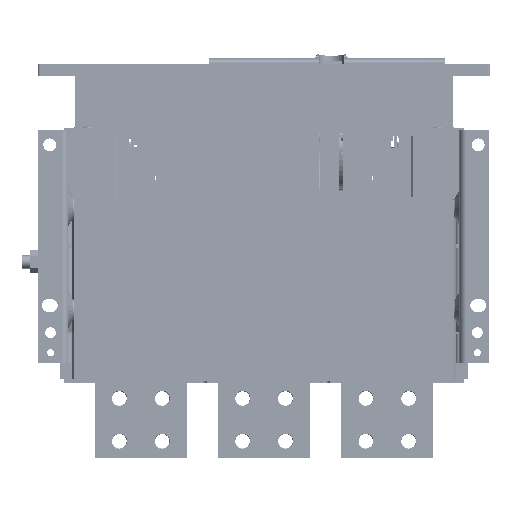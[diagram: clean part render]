
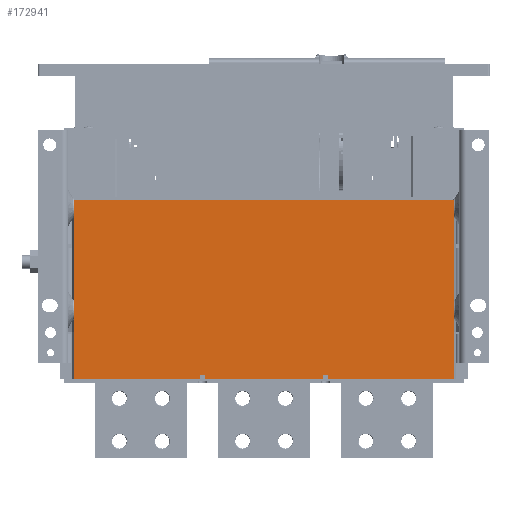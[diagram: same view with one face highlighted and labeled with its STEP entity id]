
A CAD part, front view. The second image highlights one B-rep face of the part: STEP entity #172941.
In plain terms, the highlighted planar face has unit normal (0, -1, 0) as drawn and (1, 0, 0) by its records, which use the part's own axes.
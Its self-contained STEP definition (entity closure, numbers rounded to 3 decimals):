
#6578 = VECTOR ( 'NONE', #127688, 1000. ) ;
#9912 = FACE_OUTER_BOUND ( 'NONE', #198803, .T. ) ;
#15836 = LINE ( 'NONE', #188098, #6578 ) ;
#16287 = ORIENTED_EDGE ( 'NONE', *, *, #143714, .T. ) ;
#17051 = VERTEX_POINT ( 'NONE', #203766 ) ;
#17206 = CARTESIAN_POINT ( 'NONE',  ( 358.258, -196.064, -285. ) ) ;
#17511 = EDGE_CURVE ( 'NONE', #94677, #71894, #109557, .T. ) ;
#18923 = CARTESIAN_POINT ( 'NONE',  ( 358.258, 41.436, -289.5 ) ) ;
#19701 = VERTEX_POINT ( 'NONE', #142505 ) ;
#20952 = CARTESIAN_POINT ( 'NONE',  ( 358.258, -81.064, -285. ) ) ;
#23403 = VERTEX_POINT ( 'NONE', #28809 ) ;
#28809 = CARTESIAN_POINT ( 'NONE',  ( 358.258, -313.564, -289.5 ) ) ;
#29298 = CARTESIAN_POINT ( 'NONE',  ( 358.258, -81.064, -289.5 ) ) ;
#30555 = VECTOR ( 'NONE', #142931, 1000. ) ;
#30732 = DIRECTION ( 'NONE',  ( 0., 0., -1. ) ) ;
#36885 = CARTESIAN_POINT ( 'NONE',  ( 358.258, -76.064, -289.5 ) ) ;
#38766 = VECTOR ( 'NONE', #63889, 1000. ) ;
#40186 = VECTOR ( 'NONE', #245793, 1000. ) ;
#40780 = CARTESIAN_POINT ( 'NONE',  ( 358.258, -196.064, -289.5 ) ) ;
#40948 = DIRECTION ( 'NONE',  ( 0., -1., 0. ) ) ;
#41398 = CARTESIAN_POINT ( 'NONE',  ( 358.258, -313.564, -122. ) ) ;
#44404 = EDGE_CURVE ( 'NONE', #205946, #68896, #172002, .T. ) ;
#44481 = EDGE_CURVE ( 'NONE', #179214, #23403, #61366, .T. ) ;
#46580 = ORIENTED_EDGE ( 'NONE', *, *, #166120, .F. ) ;
#47121 = AXIS2_PLACEMENT_3D ( 'NONE', #88257, #228275, #87002 ) ;
#49201 = DIRECTION ( 'NONE',  ( 0., -1., 0. ) ) ;
#56326 = DIRECTION ( 'NONE',  ( 0., -1., 0. ) ) ;
#58335 = ORIENTED_EDGE ( 'NONE', *, *, #17511, .F. ) ;
#61366 = LINE ( 'NONE', #218153, #38766 ) ;
#63889 = DIRECTION ( 'NONE',  ( 0., 0., -1. ) ) ;
#67491 = CARTESIAN_POINT ( 'NONE',  ( 358.258, -191.064, -289.5 ) ) ;
#68896 = VERTEX_POINT ( 'NONE', #230244 ) ;
#69702 = CARTESIAN_POINT ( 'NONE',  ( 358.258, -81.064, -289.5 ) ) ;
#71894 = VERTEX_POINT ( 'NONE', #67491 ) ;
#75256 = CARTESIAN_POINT ( 'NONE',  ( 358.258, -81.064, -285. ) ) ;
#76084 = VERTEX_POINT ( 'NONE', #75256 ) ;
#81008 = LINE ( 'NONE', #206791, #237910 ) ;
#83510 = VERTEX_POINT ( 'NONE', #192325 ) ;
#87002 = DIRECTION ( 'NONE',  ( 0., 1., 0. ) ) ;
#88257 = CARTESIAN_POINT ( 'NONE',  ( 358.258, 29.936, -200. ) ) ;
#89543 = ORIENTED_EDGE ( 'NONE', *, *, #215842, .F. ) ;
#94677 = VERTEX_POINT ( 'NONE', #29298 ) ;
#98527 = LINE ( 'NONE', #36885, #40186 ) ;
#104008 = ORIENTED_EDGE ( 'NONE', *, *, #209656, .F. ) ;
#109557 = LINE ( 'NONE', #69702, #249916 ) ;
#114999 = EDGE_CURVE ( 'NONE', #83510, #118770, #15836, .T. ) ;
#118770 = VERTEX_POINT ( 'NONE', #18923 ) ;
#119200 = DIRECTION ( 'NONE',  ( 0., -1., 0. ) ) ;
#119234 = DIRECTION ( 'NONE',  ( 0., 1., 0. ) ) ;
#120496 = CARTESIAN_POINT ( 'NONE',  ( 358.258, -196.064, -285. ) ) ;
#126168 = CARTESIAN_POINT ( 'NONE',  ( 358.258, -76.064, -285. ) ) ;
#126273 = ORIENTED_EDGE ( 'NONE', *, *, #44481, .T. ) ;
#127688 = DIRECTION ( 'NONE',  ( 0., 0., -1. ) ) ;
#129557 = ORIENTED_EDGE ( 'NONE', *, *, #145505, .T. ) ;
#140760 = EDGE_CURVE ( 'NONE', #17051, #156014, #98527, .T. ) ;
#141653 = VECTOR ( 'NONE', #251984, 1000. ) ;
#142505 = CARTESIAN_POINT ( 'NONE',  ( 358.258, -196.064, -289.5 ) ) ;
#142931 = DIRECTION ( 'NONE',  ( 0., 0., -1. ) ) ;
#143714 = EDGE_CURVE ( 'NONE', #68896, #71894, #81008, .T. ) ;
#145505 = EDGE_CURVE ( 'NONE', #83510, #179214, #236267, .T. ) ;
#153204 = EDGE_CURVE ( 'NONE', #19701, #23403, #175764, .T. ) ;
#153800 = VECTOR ( 'NONE', #56326, 1000. ) ;
#156014 = VERTEX_POINT ( 'NONE', #126168 ) ;
#166120 = EDGE_CURVE ( 'NONE', #156014, #76084, #232354, .T. ) ;
#167234 = EDGE_CURVE ( 'NONE', #19701, #205946, #194203, .T. ) ;
#169213 = PLANE ( 'NONE',  #47121 ) ;
#170937 = ORIENTED_EDGE ( 'NONE', *, *, #153204, .F. ) ;
#172002 = LINE ( 'NONE', #120496, #247997 ) ;
#172941 = ADVANCED_FACE ( 'NONE', ( #9912 ), #169213, .T. ) ;
#175764 = LINE ( 'NONE', #40780, #177914 ) ;
#177914 = VECTOR ( 'NONE', #214309, 1000. ) ;
#179214 = VERTEX_POINT ( 'NONE', #41398 ) ;
#188098 = CARTESIAN_POINT ( 'NONE',  ( 358.258, 41.436, -122. ) ) ;
#192325 = CARTESIAN_POINT ( 'NONE',  ( 358.258, 41.436, -122. ) ) ;
#194203 = LINE ( 'NONE', #198014, #141653 ) ;
#198014 = CARTESIAN_POINT ( 'NONE',  ( 358.258, -196.064, -289.5 ) ) ;
#198803 = EDGE_LOOP ( 'NONE', ( #126273, #170937, #220789, #211405, #16287, #58335, #104008, #46580, #216055, #89543, #222504, #129557 ) ) ;
#200656 = VECTOR ( 'NONE', #119200, 1000. ) ;
#203766 = CARTESIAN_POINT ( 'NONE',  ( 358.258, -76.064, -289.5 ) ) ;
#205946 = VERTEX_POINT ( 'NONE', #17206 ) ;
#206791 = CARTESIAN_POINT ( 'NONE',  ( 358.258, -191.064, -285. ) ) ;
#209656 = EDGE_CURVE ( 'NONE', #76084, #94677, #240578, .T. ) ;
#211405 = ORIENTED_EDGE ( 'NONE', *, *, #44404, .T. ) ;
#213061 = LINE ( 'NONE', #232301, #200656 ) ;
#214309 = DIRECTION ( 'NONE',  ( 0., -1., 0. ) ) ;
#215842 = EDGE_CURVE ( 'NONE', #118770, #17051, #213061, .T. ) ;
#216055 = ORIENTED_EDGE ( 'NONE', *, *, #140760, .F. ) ;
#217004 = CARTESIAN_POINT ( 'NONE',  ( 358.258, 41.436, -122. ) ) ;
#218153 = CARTESIAN_POINT ( 'NONE',  ( 358.258, -313.564, -122. ) ) ;
#220789 = ORIENTED_EDGE ( 'NONE', *, *, #167234, .T. ) ;
#222504 = ORIENTED_EDGE ( 'NONE', *, *, #114999, .F. ) ;
#225590 = VECTOR ( 'NONE', #40948, 1000. ) ;
#228275 = DIRECTION ( 'NONE',  ( 1., 0., 0. ) ) ;
#230244 = CARTESIAN_POINT ( 'NONE',  ( 358.258, -191.064, -285. ) ) ;
#232301 = CARTESIAN_POINT ( 'NONE',  ( 358.258, 41.436, -289.5 ) ) ;
#232354 = LINE ( 'NONE', #236174, #153800 ) ;
#236174 = CARTESIAN_POINT ( 'NONE',  ( 358.258, -76.064, -285. ) ) ;
#236267 = LINE ( 'NONE', #217004, #225590 ) ;
#237910 = VECTOR ( 'NONE', #30732, 1000. ) ;
#240578 = LINE ( 'NONE', #20952, #30555 ) ;
#245793 = DIRECTION ( 'NONE',  ( 0., 0., 1. ) ) ;
#247997 = VECTOR ( 'NONE', #119234, 1000. ) ;
#249916 = VECTOR ( 'NONE', #49201, 1000. ) ;
#251984 = DIRECTION ( 'NONE',  ( 0., 0., 1. ) ) ;
